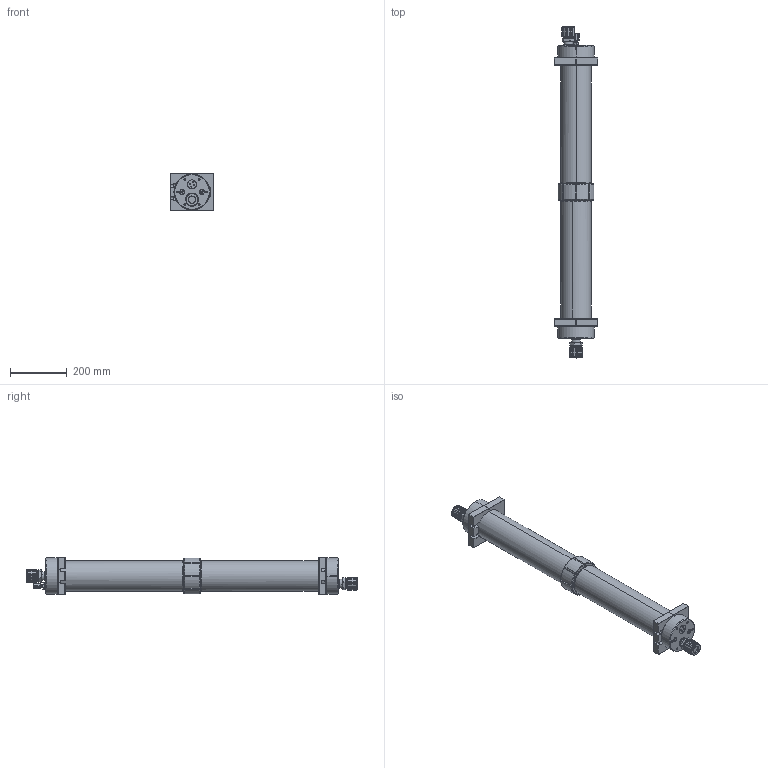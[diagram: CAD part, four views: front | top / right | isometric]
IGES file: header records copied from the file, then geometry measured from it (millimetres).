
Start section: SolidWorks IGES file using analytic representation for surfaces
Global section: file name: S:\Engineer\SW Files\R and D\Lane\PressureVessel_LG\defeatured Models\CPA-04A06L-F12F04.IGS; native system: SolidWorks 2012; preprocessor: SolidWorks 2012; author: Lane.Gardner; date: 140627.144908; units: inch
Bounding box: 152.4 x 1170.38 x 133.35 mm (x, y, z)
Surface area: 500325.2 mm2 (no closed solid volume)
Topology: 0 solids, 0 shells, 889 faces, 12514 edges, 12514 vertices
Faces by surface type: revolution 476, bspline 413
